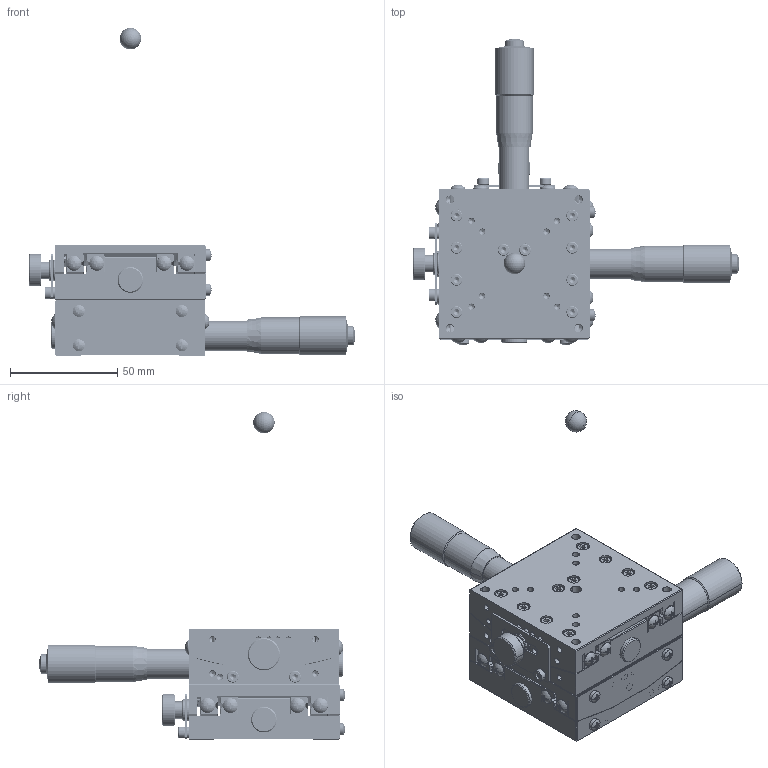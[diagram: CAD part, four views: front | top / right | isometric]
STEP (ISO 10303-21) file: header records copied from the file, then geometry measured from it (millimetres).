
FILE_DESCRIPTION (( 'STEP AP214' ), '1' );
FILE_NAME ('ST07A-C1L.STEP', '2007-01-19T02:26:33', ( ' ' ), ( ' ' ), 'SwSTEP 2.0', 'SolidWorks 2006052', '' );
FILE_SCHEMA (( 'AUTOMOTIVE_DESIGN' ));
Length unit declared in the file: millimetre
Products named in the file (11): 002610-1011(3D)-2; 002590-1130(3D)-9; 002600-1011(3D)-3; ST07A-C1M(PL)-1; 002590-1130(3D)-8; MICROMETERHEAD(MHN4-25T)spindle-9; ST07A-C1L-Part-1; ST07A-C1B(PL); ST07A-C1L; 002610-1020(3D)-2; MICROMETERHEAD(MHN4-25T)spindle-8
Assembly tree (10 placements, depth 3):
  ST07A-C1L
    ST07A-C1M(PL)-1
      MICROMETERHEAD(MHN4-25T)spindle-9
      002590-1130(3D)-9
      002600-1011(3D)-3
    ST07A-C1B(PL)
      002610-1020(3D)-2
      002610-1011(3D)-2
      MICROMETERHEAD(MHN4-25T)spindle-8
      002590-1130(3D)-8
    ST07A-C1L-Part-1
Bounding box: 152.5 x 142.89 x 153 mm (x, y, z)
Volume: 249501.2 mm3; surface area: 118664 mm2
Topology: 8 solids, 91 shells, 3774 faces, 8747 edges, 5127 vertices
Faces by surface type: plane 1596, cylinder 1220, cone 896, sphere 62
Entity records: 112141 total; most frequent: CARTESIAN_POINT 26044, DIRECTION 18897, ORIENTED_EDGE 17004, EDGE_CURVE 8502, AXIS2_PLACEMENT_3D 7288, VERTEX_POINT 5124, VECTOR 4321, LINE 4321
